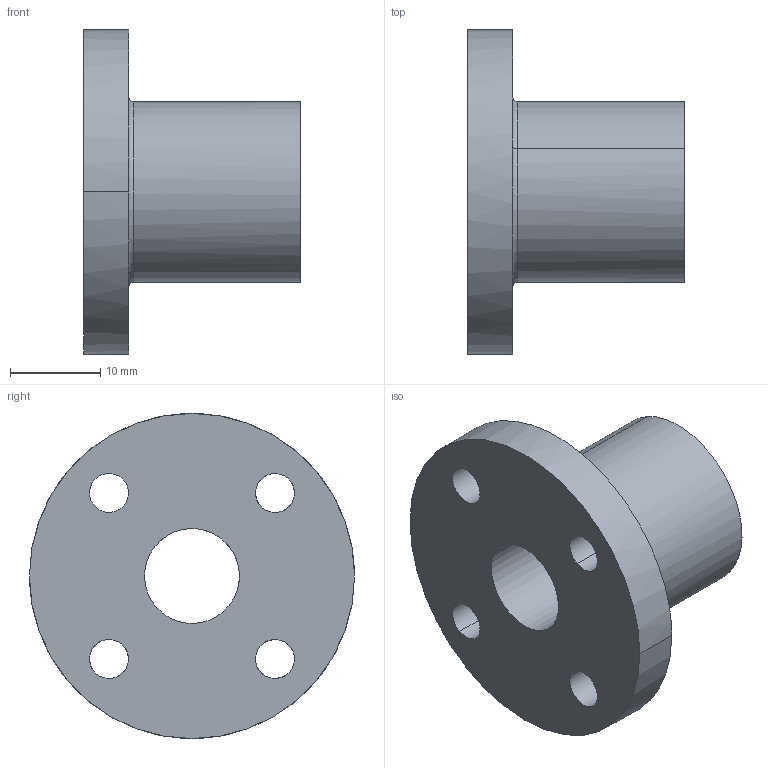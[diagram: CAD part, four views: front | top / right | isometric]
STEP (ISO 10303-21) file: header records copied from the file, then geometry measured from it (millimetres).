
FILE_DESCRIPTION(('CATIA V5 STEP Exchange'),'2;1');
FILE_NAME('C:\Users\aa\Documents\이댈\TM\TTM\TTM10.stp','2020-03-24T02:14:10+00:00',('none'),('none'),'CATIA Version 5 Release 20 SP 7 (IN-10)','CATIA V5 STEP AP203','none');
FILE_SCHEMA(('CONFIG_CONTROL_DESIGN'));
Length unit declared in the file: millimetre
Products named in the file (1): TTM10
Bounding box: 24 x 36 x 36 mm (x, y, z)
Volume: 8693.2 mm3; surface area: 4554.2 mm2
Topology: 1 solids, 1 shells, 19 faces, 46 edges, 30 vertices
Faces by surface type: cylinder 14, plane 3, torus 2
Entity records: 810 total; most frequent: CARTESIAN_POINT 324, ORIENTED_EDGE 92, DIRECTION 72, EDGE_CURVE 46, AXIS2_PLACEMENT_3D 40, EDGE_LOOP 30, VERTEX_POINT 30, CIRCLE 20
